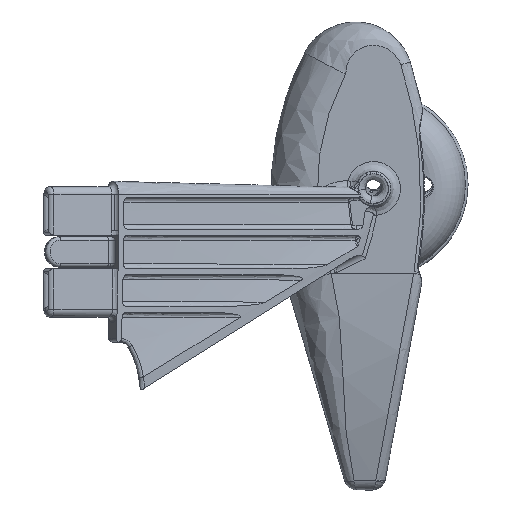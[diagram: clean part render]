
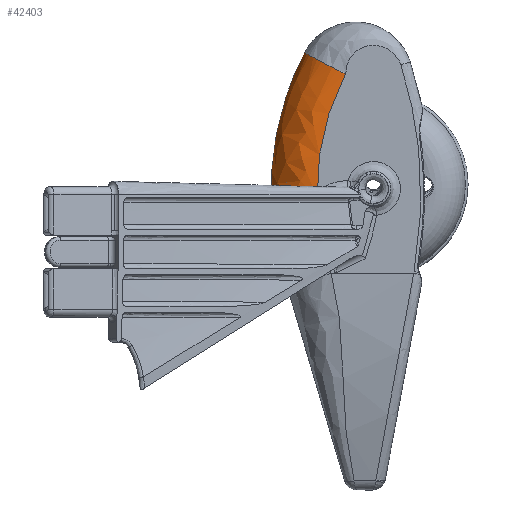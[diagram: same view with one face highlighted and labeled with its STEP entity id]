
A CAD part, left-side view. The second image highlights one B-rep face of the part: STEP entity #42403.
In plain terms, the highlighted free-form (B-spline) face has degree [2, 3] with [3, 6] control points.
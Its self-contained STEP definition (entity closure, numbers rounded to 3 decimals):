
#479 = CARTESIAN_POINT ( 'NONE',  ( 40.487, -70.87, 36.617 ) ) ;
#704 = CARTESIAN_POINT ( 'NONE',  ( 40.487, -63.1, 13.663 ) ) ;
#848 = CARTESIAN_POINT ( 'NONE',  ( 40.487, -65.4, -20.03 ) ) ;
#874 = EDGE_CURVE ( 'NONE', #18079, #10872, #1918, .T. ) ;
#1014 = CARTESIAN_POINT ( 'NONE',  ( 40.487, -70.87, 36.617 ) ) ;
#1548 = CARTESIAN_POINT ( 'NONE',  ( 54.487, -51.975, -24. ) ) ;
#1802 = CARTESIAN_POINT ( 'NONE',  ( 54.487, -48.71, -12.958 ) ) ;
#1918 =( BOUNDED_CURVE ( )  B_SPLINE_CURVE ( 2, ( #40958, #40806, #37096 ),
 .UNSPECIFIED., .F., .T. ) 
 B_SPLINE_CURVE_WITH_KNOTS ( ( 3, 3 ),
 ( 0., 1. ),
 .UNSPECIFIED. ) 
 CURVE ( )  GEOMETRIC_REPRESENTATION_ITEM ( )  RATIONAL_B_SPLINE_CURVE ( ( 1., 0.707, 1. ) ) 
 REPRESENTATION_ITEM ( '' )  );
#2378 = CARTESIAN_POINT ( 'NONE',  ( 54.487, -49.804, 21.63 ) ) ;
#2466 =( BOUNDED_SURFACE ( )  B_SPLINE_SURFACE ( 2, 3, ( 
 ( #6078, #34196, #23382, #2378, #13445, #16659 ),
 ( #34350, #2835, #13289, #20179, #26941, #37858 ),
 ( #30504, #16802, #41439, #27399, #9930, #479 ) ),
 .UNSPECIFIED., .F., .F., .T. ) 
 B_SPLINE_SURFACE_WITH_KNOTS ( ( 3, 3 ),
 ( 4, 2, 4 ),
 ( 0., 1. ),
 ( 4.425, 4.809, 5.192 ),
 .UNSPECIFIED. ) 
 GEOMETRIC_REPRESENTATION_ITEM ( )  RATIONAL_B_SPLINE_SURFACE ( (
 ( 1., 1., 1., 1., 1., 1.),
 ( 0.707, 0.707, 0.707, 0.707, 0.707, 0.707),
 ( 1., 1., 1., 1., 1., 1.) ) ) 
 REPRESENTATION_ITEM ( '' )  SURFACE ( )  );
#2835 = CARTESIAN_POINT ( 'NONE',  ( 40.487, -48.71, -12.958 ) ) ;
#3585 = CARTESIAN_POINT ( 'NONE',  ( 54.487, -51.975, -24. ) ) ;
#4251 = CARTESIAN_POINT ( 'NONE',  ( 40.487, -62.165, -0.867 ) ) ;
#6078 = CARTESIAN_POINT ( 'NONE',  ( 54.487, -51.975, -24. ) ) ;
#8748 = CARTESIAN_POINT ( 'NONE',  ( 54.487, -49.804, 21.63 ) ) ;
#9930 = CARTESIAN_POINT ( 'NONE',  ( 40.487, -66.38, 27.992 ) ) ;
#10752 = CARTESIAN_POINT ( 'NONE',  ( 54.487, -58.452, 43.082 ) ) ;
#10872 = VERTEX_POINT ( 'NONE', #29948 ) ;
#12266 = VERTEX_POINT ( 'NONE', #3585 ) ;
#13289 = CARTESIAN_POINT ( 'NONE',  ( 40.487, -47.591, -1.289 ) ) ;
#13352 = VERTEX_POINT ( 'NONE', #42870 ) ;
#13445 = CARTESIAN_POINT ( 'NONE',  ( 54.487, -53.135, 32.869 ) ) ;
#15274 = CARTESIAN_POINT ( 'NONE',  ( 40.487, -68.625, 32.305 ) ) ;
#15364 = CARTESIAN_POINT ( 'NONE',  ( 40.487, -51.975, -24. ) ) ;
#15616 = CARTESIAN_POINT ( 'NONE',  ( 54.487, -51.975, -24. ) ) ;
#16659 = CARTESIAN_POINT ( 'NONE',  ( 54.487, -58.452, 43.082 ) ) ;
#16802 = CARTESIAN_POINT ( 'NONE',  ( 40.487, -62.643, -10.706 ) ) ;
#18079 = VERTEX_POINT ( 'NONE', #10752 ) ;
#18651 = EDGE_CURVE ( 'NONE', #12266, #13352, #31594, .T. ) ;
#19037 = CARTESIAN_POINT ( 'NONE',  ( 40.487, -65.4, -20.03 ) ) ;
#19125 = ORIENTED_EDGE ( 'NONE', *, *, #38554, .F. ) ;
#19695 = ORIENTED_EDGE ( 'NONE', *, *, #21333, .F. ) ;
#20179 = CARTESIAN_POINT ( 'NONE',  ( 40.487, -49.804, 21.63 ) ) ;
#20189 = B_SPLINE_CURVE_WITH_KNOTS ( 'NONE', 3,
 ( #1014, #15274, #42851, #21719, #704, #25258, #4251, #28814, #36179, #848 ),
 .UNSPECIFIED., .F., .F.,
 ( 4, 2, 2, 2, 4 ),
 ( 0., 0.25, 0.5, 0.75, 1. ),
 .UNSPECIFIED. ) ;
#20262 = FACE_OUTER_BOUND ( 'NONE', #27538, .T. ) ;
#21333 = EDGE_CURVE ( 'NONE', #12266, #18079, #34738, .T. ) ;
#21719 = CARTESIAN_POINT ( 'NONE',  ( 40.487, -64.029, 18.427 ) ) ;
#23382 = CARTESIAN_POINT ( 'NONE',  ( 54.487, -47.591, -1.289 ) ) ;
#25258 = CARTESIAN_POINT ( 'NONE',  ( 40.487, -62.166, 3.987 ) ) ;
#26505 = CARTESIAN_POINT ( 'NONE',  ( 54.487, -58.452, 43.082 ) ) ;
#26941 = CARTESIAN_POINT ( 'NONE',  ( 40.487, -53.135, 32.869 ) ) ;
#27399 = CARTESIAN_POINT ( 'NONE',  ( 40.487, -63.567, 18.502 ) ) ;
#27538 = EDGE_LOOP ( 'NONE', ( #43337, #19125, #27585, #19695 ) ) ;
#27585 = ORIENTED_EDGE ( 'NONE', *, *, #874, .F. ) ;
#28814 = CARTESIAN_POINT ( 'NONE',  ( 40.487, -63.099, -10.603 ) ) ;
#29608 = CARTESIAN_POINT ( 'NONE',  ( 54.487, -53.135, 32.869 ) ) ;
#29948 = CARTESIAN_POINT ( 'NONE',  ( 40.487, -70.87, 36.617 ) ) ;
#30504 = CARTESIAN_POINT ( 'NONE',  ( 40.487, -65.4, -20.03 ) ) ;
#31594 =( BOUNDED_CURVE ( )  B_SPLINE_CURVE ( 2, ( #1548, #15364, #19037 ),
 .UNSPECIFIED., .F., .F. ) 
 B_SPLINE_CURVE_WITH_KNOTS ( ( 3, 3 ),
 ( 0., 1. ),
 .UNSPECIFIED. ) 
 CURVE ( )  GEOMETRIC_REPRESENTATION_ITEM ( )  RATIONAL_B_SPLINE_CURVE ( ( 1., 0.707, 1. ) ) 
 REPRESENTATION_ITEM ( '' )  );
#34196 = CARTESIAN_POINT ( 'NONE',  ( 54.487, -48.71, -12.958 ) ) ;
#34350 = CARTESIAN_POINT ( 'NONE',  ( 40.487, -51.975, -24. ) ) ;
#34738 = B_SPLINE_CURVE_WITH_KNOTS ( 'NONE', 3,
 ( #15616, #1802, #36829, #8748, #29608, #26505 ),
 .UNSPECIFIED., .F., .F.,
 ( 4, 2, 4 ),
 ( 0., 0.5, 1. ),
 .UNSPECIFIED. ) ;
#36179 = CARTESIAN_POINT ( 'NONE',  ( 40.487, -64.022, -15.368 ) ) ;
#36829 = CARTESIAN_POINT ( 'NONE',  ( 54.487, -47.591, -1.289 ) ) ;
#37096 = CARTESIAN_POINT ( 'NONE',  ( 40.487, -70.87, 36.617 ) ) ;
#37858 = CARTESIAN_POINT ( 'NONE',  ( 40.487, -58.452, 43.082 ) ) ;
#38554 = EDGE_CURVE ( 'NONE', #10872, #13352, #20189, .T. ) ;
#40806 = CARTESIAN_POINT ( 'NONE',  ( 40.487, -58.452, 43.082 ) ) ;
#40958 = CARTESIAN_POINT ( 'NONE',  ( 54.487, -58.452, 43.082 ) ) ;
#41439 = CARTESIAN_POINT ( 'NONE',  ( 40.487, -61.698, -0.852 ) ) ;
#42403 = ADVANCED_FACE ( 'NONE', ( #20262 ), #2466, .T. ) ;
#42851 = CARTESIAN_POINT ( 'NONE',  ( 40.487, -66.808, 27.803 ) ) ;
#42870 = CARTESIAN_POINT ( 'NONE',  ( 40.487, -65.4, -20.03 ) ) ;
#43337 = ORIENTED_EDGE ( 'NONE', *, *, #18651, .T. ) ;
